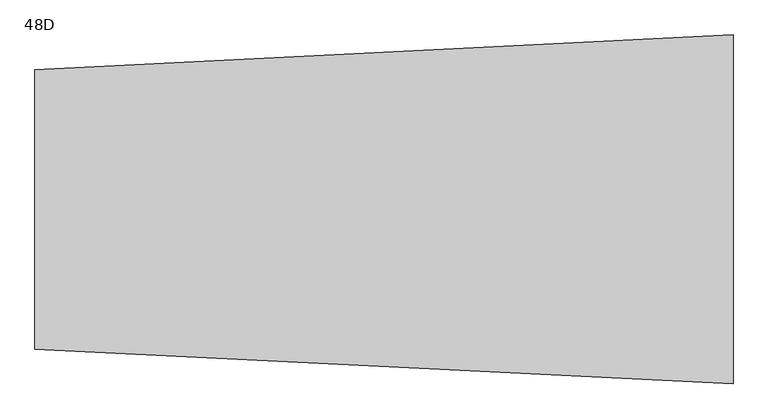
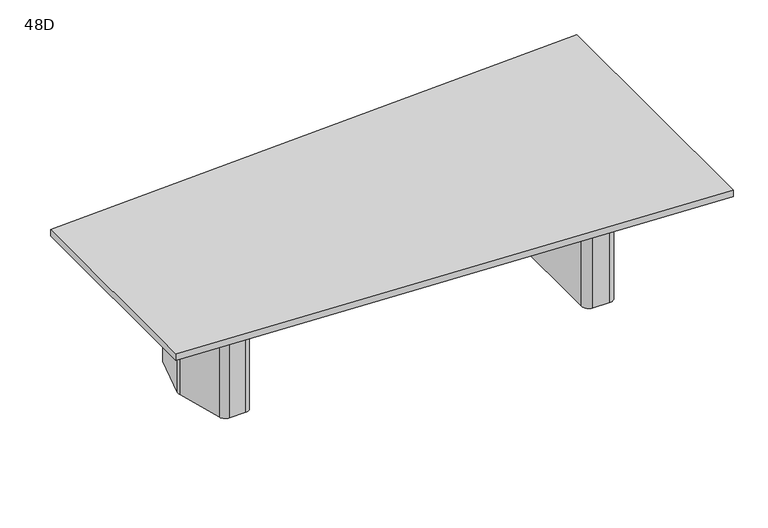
"""IFC4 building model written with IfcOpenShell, lengths in millimetres: furniture geometry, Coalesse_AM_Table_Conference_ETable2_Trapezoid_10ft_TwoBase : 48D."""

from ifc_helpers import new_model, si_unit, point, frame, frame_2d, origin, origin_with_axes, place, context, project, spatial, polyline, circle_curve, trimmed, segment, composite_curve, outline, extrude, source, transform, mapped, element, save
from ifc_brep_helpers import plane_surface, cylinder_surface, revolved_surface, advanced_brep


def furniture_48d_3bebeff3(model_context):
    return source(origin(), model_context, "Body", "SolidModel", [
        extrude(outline(composite_curve([segment(polyline([(1141.4125, 101.7236478), (1141.4125, -97.2761514)]), True, "CONTINUOUS"), segment(trimmed(circle_curve(frame_2d((1103.3125, -97.2761514)), 38.1), [point((1141.4125, -97.2761514))], [point((1139.6491129, -108.7330515))], False, "CARTESIAN"), True, "CONTINUOUS"), segment(polyline([(1139.6491129, -108.7330515), (1081.2245591, -294.0319001)]), True, "CONTINUOUS"), segment(trimmed(circle_curve(frame_2d((1044.8879462, -282.575)), 38.1), [point((1081.2245591, -294.0319001))], [point((1044.8879462, -320.675))], False, "CARTESIAN"), True, "CONTINUOUS"), segment(polyline([(1044.8879462, -320.675), (977.9, -320.675)]), True, "CONTINUOUS"), segment(trimmed(circle_curve(frame_2d((977.9, -282.575)), 38.1), [point((977.9, -320.675))], [point((939.8, -282.575))], False, "CARTESIAN"), True, "CONTINUOUS"), segment(polyline([(939.8, -282.575), (939.8, 282.575)]), True, "CONTINUOUS"), segment(trimmed(circle_curve(frame_2d((977.9, 282.575)), 38.1), [point((939.8, 282.575))], [point((977.9, 320.675))], False, "CARTESIAN"), True, "CONTINUOUS"), segment(polyline([(977.9, 320.675), (1048.6373998, 320.675)]), True, "CONTINUOUS"), segment(trimmed(circle_curve(frame_2d((1048.6373998, 282.575)), 38.1), [point((1048.6373998, 320.675))], [point((1085.1072049, 293.6005756))], False, "CARTESIAN"), True, "CONTINUOUS"), segment(polyline([(1085.1072049, 293.6005756), (1139.7823051, 112.7492234)]), True, "CONTINUOUS"), segment(trimmed(circle_curve(frame_2d((1103.3125, 101.7236478)), 38.1), [point((1139.7823051, 112.7492234))], [point((1141.4125, 101.7236478))], False, "CARTESIAN"), True, "CONTINUOUS")], self_intersect=False)), origin_with_axes(), (0.0, 0.0, 1.0), 3.175),
        extrude(outline(composite_curve([segment(polyline([(962.025, 381.0), (1050.1721663, 381.0)]), True, "CONTINUOUS"), segment(trimmed(circle_curve(frame_2d((1050.1721663, 339.725)), 41.275), [point((1050.1721663, 381.0))], [point((1089.5368303, 352.1366418))], False, "CARTESIAN"), True, "CONTINUOUS"), segment(polyline([(1089.5368303, 352.1366418), (1196.6518053, 12.4116418)]), True, "CONTINUOUS"), segment(trimmed(circle_curve(frame_2d((1157.2871413, 0.0)), 41.275), [point((1196.6518053, 12.4116418))], [point((1196.6518053, -12.4116418))], False, "CARTESIAN"), True, "CONTINUOUS"), segment(polyline([(1196.6518053, -12.4116418), (1089.5368303, -352.1366418)]), True, "CONTINUOUS"), segment(trimmed(circle_curve(frame_2d((1050.1721663, -339.725)), 41.275), [point((1089.5368303, -352.1366418))], [point((1050.1721663, -381.0))], False, "CARTESIAN"), True, "CONTINUOUS"), segment(polyline([(1050.1721663, -381.0), (955.675, -381.0)]), True, "CONTINUOUS"), segment(trimmed(circle_curve(frame_2d((955.675, -339.725)), 41.275), [point((955.675, -381.0))], [point((914.4, -339.725))], False, "CARTESIAN"), True, "CONTINUOUS"), segment(polyline([(914.4, -339.725), (914.4, 333.375)]), True, "CONTINUOUS"), segment(trimmed(circle_curve(frame_2d((962.025, 333.375)), 47.625), [point((914.4, 333.375))], [point((962.025, 381.0))], False, "CARTESIAN"), True, "CONTINUOUS")], self_intersect=False), holes=[composite_curve([segment(trimmed(circle_curve(frame_2d((977.9, -282.575)), 25.4), [point((952.5, -282.575))], [point((977.9, -307.975))], True, "CARTESIAN"), True, "CONTINUOUS"), segment(polyline([(977.9, -307.975), (1044.8879462, -307.975)]), True, "CONTINUOUS"), segment(trimmed(circle_curve(frame_2d((1044.8879462, -282.575)), 25.4), [point((1044.8879462, -307.975))], [point((1069.1123548, -290.2129334))], True, "CARTESIAN"), True, "CONTINUOUS"), segment(polyline([(1069.1123548, -290.2129334), (1127.5369086, -104.9140848)]), True, "CONTINUOUS"), segment(trimmed(circle_curve(frame_2d((1103.3125, -97.2761514)), 25.4), [point((1127.5369086, -104.9140848))], [point((1128.7125, -97.2761514))], True, "CARTESIAN"), True, "CONTINUOUS"), segment(polyline([(1128.7125, -97.2761514), (1128.7125, 101.7236478)]), True, "CONTINUOUS"), segment(trimmed(circle_curve(frame_2d((1103.3125, 101.7236478)), 25.4), [point((1128.7125, 101.7236478))], [point((1127.6257034, 109.0740316))], True, "CARTESIAN"), True, "CONTINUOUS"), segment(polyline([(1127.6257034, 109.0740316), (1072.9506032, 289.9253837)]), True, "CONTINUOUS"), segment(trimmed(circle_curve(frame_2d((1048.6373998, 282.575)), 25.4), [point((1072.9506032, 289.9253837))], [point((1048.6373998, 307.975))], True, "CARTESIAN"), True, "CONTINUOUS"), segment(polyline([(1048.6373998, 307.975), (977.9, 307.975)]), True, "CONTINUOUS"), segment(trimmed(circle_curve(frame_2d((977.9, 282.575)), 25.4), [point((977.9, 307.975))], [point((952.5, 282.575))], True, "CARTESIAN"), True, "CONTINUOUS"), segment(polyline([(952.5, 282.575), (952.5, -282.575)]), True, "CONTINUOUS")], self_intersect=False)]), frame((0.0, 0.0, 3.175), z_axis=(0.0, 0.0, 1.0), x_axis=(1.0, 0.0, 0.0)), (0.0, 0.0, 1.0), 695.325),
        advanced_brep(
        [(-1085.268298, 274.2093613, 698.5), (-1155.8941401, 10.6333708, 698.5), (-1155.8941401, -10.6333708, 698.5), (-1085.268298, -274.2093613, 698.5), (-1045.4016746, -304.8, 698.5), (-956.46875, -304.8, 698.5), (-915.19375, -263.525, 698.5), (-915.19375, 263.525, 698.5), (-956.46875, 304.8, 698.5), (-1045.4016746, 304.8, 698.5), (-953.29375, -206.375, 698.5), (-978.69375, -231.775, 698.5), (-1037.7045922, -231.775, 698.5), (-1062.239088, -212.9490792, 698.5), (-1100.93125, -68.54974, 698.5), (-1100.93125, 68.54974, 698.5), (-1062.239088, 212.9490792, 698.5), (-1037.7045922, 231.775, 698.5), (-978.69375, 231.775, 698.5), (-953.29375, 206.375, 698.5), (-1085.268298, 274.2093613, 3.175), (-1045.4016746, 304.8, 3.175), (-956.46875, 304.8, 3.175), (-915.19375, 263.525, 3.175), (-915.19375, -263.525, 3.175), (-956.46875, -304.8, 3.175), (-1045.4016746, -304.8, 3.175), (-1085.268298, -274.2093613, 3.175), (-1155.8941401, -10.6333708, 3.175), (-1155.8941401, 10.6333708, 3.175), (-1074.5063359, 216.2361187, 3.175), (-1113.63125, 70.2217466, 3.175), (-1113.63125, -70.2217466, 3.175), (-1074.5063359, -216.2361187, 3.175), (-1037.7045922, -244.475, 3.175), (-978.69375, -244.475, 3.175), (-940.59375, -206.375, 3.175), (-940.59375, 206.375, 3.175), (-978.69375, 244.475, 3.175), (-1037.7045922, 244.475, 3.175), (-953.29375, -206.375, 3.175), (-978.69375, -231.775, 3.175), (-1037.7045922, -231.775, 3.175), (-1062.239088, -212.9490792, 3.175), (-1100.93125, -68.54974, 3.175), (-1100.93125, 68.54974, 3.175), (-1062.239088, 212.9490792, 3.175), (-1037.7045922, 231.775, 3.175), (-978.69375, 231.775, 3.175), (-953.29375, 206.375, 3.175), (-1074.5063359, 216.2361187, 0.0), (-1037.7045922, 244.475, 0.0), (-978.69375, 244.475, 0.0), (-940.59375, 206.375, 0.0), (-940.59375, -206.375, 0.0), (-978.69375, -244.475, 0.0), (-1037.7045922, -244.475, 0.0), (-1074.5063359, -216.2361187, 0.0), (-1113.63125, -70.2217466, 0.0), (-1113.63125, 70.2217466, 0.0)],
        [
            (0, 1),
            (1, 2, circle_curve(frame((-1116.2103479, 0.0, 698.5), z_axis=(0.0, 0.0, 1.0), x_axis=(1.0, 0.0, 0.0)), 41.0837187)),
            (2, 3),
            (3, 4, circle_curve(frame((-1045.4016746, -263.5270004, 698.5), z_axis=(0.0, 0.0, 1.0), x_axis=(1.0, 0.0, 0.0)), 41.2729996)),
            (4, 5),
            (5, 6, circle_curve(frame((-956.46875, -263.525, 698.5), z_axis=(0.0, 0.0, 1.0), x_axis=(1.0, 0.0, 0.0)), 41.275)),
            (6, 7),
            (7, 8, circle_curve(frame((-956.46875, 263.525, 698.5), z_axis=(0.0, 0.0, 1.0), x_axis=(1.0, 0.0, 0.0)), 41.275)),
            (8, 9),
            (9, 0, circle_curve(frame((-1045.4016746, 263.5270004, 698.5), z_axis=(0.0, 0.0, 1.0), x_axis=(1.0, 0.0, 0.0)), 41.2729996)),
            (10, 11, circle_curve(frame((-978.69375, -206.375, 698.5), z_axis=(0.0, 0.0, -1.0), x_axis=(1.0, 0.0, 0.0)), 25.4)),
            (11, 12),
            (12, 13, circle_curve(frame((-1037.7045922, -206.375, 698.5), z_axis=(0.0, 0.0, -1.0), x_axis=(1.0, 0.0, 0.0)), 25.4)),
            (13, 14),
            (14, 15),
            (15, 16),
            (16, 17, circle_curve(frame((-1037.7045922, 206.375, 698.5), z_axis=(0.0, 0.0, -1.0), x_axis=(1.0, 0.0, 0.0)), 25.4)),
            (17, 18),
            (18, 19, circle_curve(frame((-978.69375, 206.375, 698.5), z_axis=(0.0, 0.0, -1.0), x_axis=(1.0, 0.0, 0.0)), 25.4)),
            (19, 10),
            (20, 21, circle_curve(frame((-1045.4016746, 263.5270004, 3.175), z_axis=(0.0, 0.0, -1.0), x_axis=(1.0, 0.0, 0.0)), 41.2729996)),
            (21, 22),
            (22, 23, circle_curve(frame((-956.46875, 263.525, 3.175), z_axis=(0.0, 0.0, -1.0), x_axis=(1.0, 0.0, 0.0)), 41.275)),
            (23, 24),
            (24, 25, circle_curve(frame((-956.46875, -263.525, 3.175), z_axis=(0.0, 0.0, -1.0), x_axis=(1.0, 0.0, 0.0)), 41.275)),
            (25, 26),
            (26, 27, circle_curve(frame((-1045.4016746, -263.5270004, 3.175), z_axis=(0.0, 0.0, -1.0), x_axis=(1.0, 0.0, 0.0)), 41.2729996)),
            (27, 28),
            (28, 29, circle_curve(frame((-1116.2103479, 0.0, 3.175), z_axis=(0.0, 0.0, -1.0), x_axis=(1.0, 0.0, 0.0)), 41.0837187)),
            (29, 20),
            (30, 31),
            (31, 32),
            (32, 33),
            (33, 34, circle_curve(frame((-1037.7045922, -206.375, 3.175), z_axis=(0.0, 0.0, 1.0), x_axis=(1.0, 0.0, 0.0)), 38.1)),
            (34, 35),
            (35, 36, circle_curve(frame((-978.69375, -206.375, 3.175), z_axis=(0.0, 0.0, 1.0), x_axis=(1.0, 0.0, 0.0)), 38.1)),
            (36, 37),
            (37, 38, circle_curve(frame((-978.69375, 206.375, 3.175), z_axis=(0.0, 0.0, 1.0), x_axis=(1.0, 0.0, 0.0)), 38.1)),
            (38, 39),
            (39, 30, circle_curve(frame((-1037.7045922, 206.375, 3.175), z_axis=(0.0, 0.0, 1.0), x_axis=(1.0, 0.0, 0.0)), 38.1)),
            (0, 20),
            (29, 1),
            (28, 2),
            (27, 3),
            (26, 4),
            (25, 5),
            (24, 6),
            (23, 7),
            (22, 8),
            (21, 9),
            (10, 40),
            (40, 41, circle_curve(frame((-978.69375, -206.375, 3.175), z_axis=(0.0, 0.0, -1.0), x_axis=(1.0, 0.0, 0.0)), 25.4)),
            (41, 11),
            (41, 42),
            (42, 12),
            (42, 43, circle_curve(frame((-1037.7045922, -206.375, 3.175), z_axis=(0.0, 0.0, -1.0), x_axis=(1.0, 0.0, 0.0)), 25.4)),
            (43, 13),
            (43, 44),
            (44, 14),
            (44, 45),
            (45, 15),
            (45, 46),
            (46, 16),
            (46, 47, circle_curve(frame((-1037.7045922, 206.375, 3.175), z_axis=(0.0, 0.0, -1.0), x_axis=(1.0, 0.0, 0.0)), 25.4)),
            (47, 17),
            (47, 48),
            (48, 18),
            (48, 49, circle_curve(frame((-978.69375, 206.375, 3.175), z_axis=(0.0, 0.0, -1.0), x_axis=(1.0, 0.0, 0.0)), 25.4)),
            (49, 19),
            (49, 40),
            (50, 51, circle_curve(frame((-1037.7045922, 206.375, 0.0), z_axis=(0.0, 0.0, -1.0), x_axis=(1.0, 0.0, 0.0)), 38.1)),
            (51, 52),
            (52, 53, circle_curve(frame((-978.69375, 206.375, 0.0), z_axis=(0.0, 0.0, -1.0), x_axis=(1.0, 0.0, 0.0)), 38.1)),
            (53, 54),
            (54, 55, circle_curve(frame((-978.69375, -206.375, 0.0), z_axis=(0.0, 0.0, -1.0), x_axis=(1.0, 0.0, 0.0)), 38.1)),
            (55, 56),
            (56, 57, circle_curve(frame((-1037.7045922, -206.375, 0.0), z_axis=(0.0, 0.0, -1.0), x_axis=(1.0, 0.0, 0.0)), 38.1)),
            (57, 58),
            (58, 59),
            (59, 50),
            (59, 31),
            (30, 50),
            (58, 32),
            (57, 33),
            (56, 34),
            (55, 35),
            (54, 36),
            (53, 37),
            (52, 38),
            (51, 39),
        ],
        [
            plane_surface(frame((-1155.8811775, 10.6817473, 698.5), z_axis=(0.0, 0.0, 1.0000000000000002), x_axis=(-0.25882201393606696, -0.9659250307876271, 0.0))),
            plane_surface(frame((-1155.8811775, 10.6817473, 3.175), z_axis=(0.0, 0.0, -1.0000000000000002), x_axis=(0.25882201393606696, 0.9659250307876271, 0.0))),
            plane_surface(frame((-1085.268298, 274.2093613, 698.5), z_axis=(-0.9659250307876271, 0.25882201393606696, 0.0), x_axis=(0.0, 0.0, -1.0))),
            cylinder_surface(frame((-1116.2103479, 0.0, 3.175), z_axis=(0.0, 0.0, 1.0), x_axis=(1.0, 0.0, 0.0)), 41.0837187),
            plane_surface(frame((-1155.8941401, -10.6333708, 698.5), z_axis=(-0.9659250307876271, -0.2588220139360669, 0.0), x_axis=(0.0, 0.0, -1.0))),
            cylinder_surface(frame((-1045.4016746, -263.5270004, 3.175), z_axis=(0.0, 0.0, 1.0), x_axis=(1.0, 0.0, 0.0)), 41.2729996),
            plane_surface(frame((-1045.4016746, -304.8, 698.5), z_axis=(0.0, -1.0, 0.0), x_axis=(0.0, 0.0, -1.0))),
            cylinder_surface(frame((-956.46875, -263.525, 3.175), z_axis=(0.0, 0.0, 1.0), x_axis=(1.0, 0.0, 0.0)), 41.275),
            plane_surface(frame((-915.19375, -263.525, 698.5), z_axis=(1.0, 0.0, 0.0), x_axis=(0.0, 0.0, -1.0))),
            cylinder_surface(frame((-956.46875, 263.525, 3.175), z_axis=(0.0, 0.0, 1.0), x_axis=(1.0, 0.0, 0.0)), 41.275),
            plane_surface(frame((-956.46875, 304.8, 698.5), z_axis=(0.0, 1.0, 0.0), x_axis=(0.0, 0.0, -1.0))),
            cylinder_surface(frame((-1045.4016746, 263.5270004, 3.175), z_axis=(0.0, 0.0, 1.0), x_axis=(1.0, 0.0, 0.0)), 41.2729996),
            revolved_surface(polyline([(-953.29375, -206.375, 3.175), (-953.29375, -206.375, 698.5)]), (-978.69375, -206.375, 0.0), (0.0, 0.0, -1.0)),
            plane_surface(frame((-978.69375, -231.775, 698.5), z_axis=(0.0, 1.0, 0.0), x_axis=(0.0, 0.0, -1.0))),
            revolved_surface(polyline([(-1012.3045922, -206.375, 3.175), (-1012.3045922, -206.375, 698.5)]), (-1037.7045922, -206.375, 0.0), (0.0, 0.0, -1.0)),
            plane_surface(frame((-1062.239088, -212.9490792, 698.5), z_axis=(0.9659250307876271, 0.2588220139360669, 0.0), x_axis=(0.0, 0.0, -1.0))),
            plane_surface(frame((-1100.93125, -68.54974, 698.5), z_axis=(1.0, 0.0, 0.0), x_axis=(0.0, 0.0, -1.0))),
            plane_surface(frame((-1100.93125, 68.54974, 698.5), z_axis=(0.9659250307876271, -0.25882201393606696, 0.0), x_axis=(0.0, 0.0, -1.0))),
            revolved_surface(polyline([(-1012.3045922, 206.375, 3.175), (-1012.3045922, 206.375, 698.5)]), (-1037.7045922, 206.375, 0.0), (0.0, 0.0, -1.0)),
            plane_surface(frame((-1037.7045922, 231.775, 698.5), z_axis=(0.0, -1.0, 0.0), x_axis=(0.0, 0.0, -1.0))),
            revolved_surface(polyline([(-953.29375, 206.375, 3.175), (-953.29375, 206.375, 698.5)]), (-978.69375, 206.375, 0.0), (0.0, 0.0, -1.0)),
            plane_surface(frame((-953.29375, 206.375, 698.5), z_axis=(-1.0, 0.0, 0.0), x_axis=(0.0, 0.0, -1.0))),
            plane_surface(frame((-1113.1984979, 71.8367796, 3.175), z_axis=(0.0, 0.0, 1.0), x_axis=(-0.25882201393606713, -0.965925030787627, 0.0))),
            plane_surface(frame((-1113.1984979, 71.8367796, 0.0), z_axis=(0.0, 0.0, -1.0), x_axis=(0.25882201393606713, 0.965925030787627, 0.0))),
            plane_surface(frame((-1074.5063359, 216.2361187, 3.175), z_axis=(-0.965925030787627, 0.25882201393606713, 0.0), x_axis=(0.0, 0.0, -1.0))),
            plane_surface(frame((-1113.63125, 70.2217466, 3.175), z_axis=(-1.0, 0.0, 0.0), x_axis=(0.0, 0.0, -1.0))),
            plane_surface(frame((-1113.63125, -70.2217466, 3.175), z_axis=(-0.9659250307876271, -0.2588220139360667, 0.0), x_axis=(0.0, 0.0, -1.0))),
            cylinder_surface(frame((-1037.7045922, -206.375, 0.0), z_axis=(0.0, 0.0, 1.0), x_axis=(1.0, 0.0, 0.0)), 38.1),
            plane_surface(frame((-1037.7045922, -244.475, 3.175), z_axis=(0.0, -1.0, 0.0), x_axis=(0.0, 0.0, -1.0))),
            cylinder_surface(frame((-978.69375, -206.375, 0.0), z_axis=(0.0, 0.0, 1.0), x_axis=(1.0, 0.0, 0.0)), 38.1),
            plane_surface(frame((-940.59375, -206.375, 3.175), z_axis=(1.0, 0.0, 0.0), x_axis=(0.0, 0.0, -1.0))),
            cylinder_surface(frame((-978.69375, 206.375, 0.0), z_axis=(0.0, 0.0, 1.0), x_axis=(1.0, 0.0, 0.0)), 38.1),
            plane_surface(frame((-978.69375, 244.475, 3.175), z_axis=(0.0, 1.0, 0.0), x_axis=(0.0, 0.0, -1.0))),
            cylinder_surface(frame((-1037.7045922, 206.375, 0.0), z_axis=(0.0, 0.0, 1.0), x_axis=(1.0, 0.0, 0.0)), 38.1),
        ],
        [
            (0, [[1, 2, 3, 4, 5, 6, 7, 8, 9, 10], [11, 12, 13, 14, 15, 16, 17, 18, 19, 20]]),
            (1, [[21, 22, 23, 24, 25, 26, 27, 28, 29, 30], [31, 32, 33, 34, 35, 36, 37, 38, 39, 40]]),
            (2, [[-1, 41, -30, 42]]),
            (3, [[-2, -42, -29, 43]]),
            (4, [[-3, -43, -28, 44]]),
            (5, [[-4, -44, -27, 45]]),
            (6, [[-5, -45, -26, 46]]),
            (7, [[-6, -46, -25, 47]]),
            (8, [[-7, -47, -24, 48]]),
            (9, [[-8, -48, -23, 49]]),
            (10, [[-9, -49, -22, 50]]),
            (11, [[-10, -50, -21, -41]]),
            (12, [[-11, 51, 52, 53]]),
            (13, [[-12, -53, 54, 55]]),
            (14, [[-13, -55, 56, 57]]),
            (15, [[-14, -57, 58, 59]]),
            (16, [[-15, -59, 60, 61]]),
            (17, [[-16, -61, 62, 63]]),
            (18, [[-17, -63, 64, 65]]),
            (19, [[-18, -65, 66, 67]]),
            (20, [[-19, -67, 68, 69]]),
            (21, [[-20, -69, 70, -51]]),
            (22, [[-52, -70, -68, -66, -64, -62, -60, -58, -56, -54]]),
            (23, [[71, 72, 73, 74, 75, 76, 77, 78, 79, 80]]),
            (24, [[-80, 81, -31, 82]]),
            (25, [[-79, 83, -32, -81]]),
            (26, [[-78, 84, -33, -83]]),
            (27, [[-77, 85, -34, -84]]),
            (28, [[-76, 86, -35, -85]]),
            (29, [[-75, 87, -36, -86]]),
            (30, [[-74, 88, -37, -87]]),
            (31, [[-73, 89, -38, -88]]),
            (32, [[-72, 90, -39, -89]]),
            (33, [[-71, -82, -40, -90]]),
        ],
    ),
        extrude(outline(polyline([(1524.0, 762.0), (1524.0, -762.0), (-1524.0, -609.6), (-1524.0, 609.6), (1524.0, 762.0)])), frame((0.0, 0.0, 698.5), z_axis=(0.0, 0.0, 1.0), x_axis=(1.0, 0.0, 0.0)), (0.0, 0.0, 1.0), 38.1),
        extrude(outline(polyline([(96.8375, 698.5), (103.1875, 698.5), (103.1875, 476.25), (-103.1875, 476.25), (-103.1875, 698.5), (-96.8375, 698.5), (-96.8375, 482.6), (96.8375, 482.6), (96.8375, 698.5)])), frame((-915.19375, 0.0, 0.0), z_axis=(1.0, 0.0, 0.0), x_axis=(0.0, 1.0, 0.0)), (0.0, 0.0, 1.0), 1829.59375),
    ])


if __name__ == "__main__":
    model = new_model("IFC4")
    model_context = context("Model", 3, world=origin())
    ifc_project = project(units=[si_unit("LENGTHUNIT", "METRE", prefix="MILLI")], contexts=[model_context])
    site = spatial("IfcSite", under=ifc_project)
    building = spatial("IfcBuilding", under=site)
    placement = place(None, origin())
    furniture_48d_shape = furniture_48d_3bebeff3(model_context)
    element("IfcFurniture", 1, ObjectType="Coalesse_AM_Table_Conference_ETable2_Trapezoid_10ft_TwoBase : 48D", at=placement, inside=building, context=model_context, shape_type="MappedRepresentation", body=[
        mapped(furniture_48d_shape, transform((0.0, 0.0, 0.0), x_axis=(1.0, 0.0, 0.0), y_axis=(0.0, 1.0, 0.0), z_axis=(0.0, 0.0, 1.0))),
    ])
    save(model, "model.ifc")
